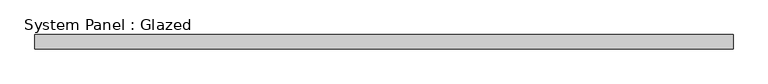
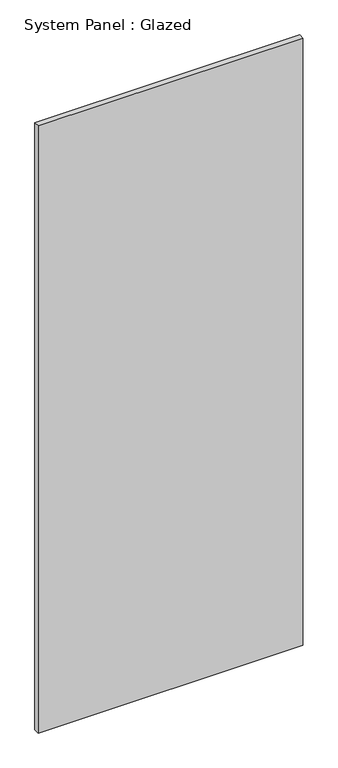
"""IFC4 building model written with IfcOpenShell, lengths in millimetres: plate geometry, System Panel : Glazed."""

from ifc_helpers import new_model, si_unit, origin, origin_with_axes, place, context, project, spatial, polyline, outline, extrude, source, transform, mapped, element, save


def system_panel_glazed_3ccd4ad1(model_context):
    return source(origin(), model_context, "Body", "SweptSolid", [
        extrude(outline(polyline([(620.7125, -44.45), (-620.7125, -44.45), (-620.7125, -19.05), (620.7125, -19.05), (620.7125, -44.45)])), origin_with_axes(), (0.0, 0.0, 1.0), 3009.9),
    ])


if __name__ == "__main__":
    model = new_model("IFC4")
    model_context = context("Model", 3, world=origin())
    ifc_project = project(units=[si_unit("LENGTHUNIT", "METRE", prefix="MILLI")], contexts=[model_context])
    site = spatial("IfcSite", under=ifc_project)
    building = spatial("IfcBuilding", under=site)
    placement = place(None, origin())
    system_panel_glazed_shape = system_panel_glazed_3ccd4ad1(model_context)
    element("IfcPlate", 1, ObjectType="System Panel : Glazed", at=placement, inside=building, context=model_context, shape_type="MappedRepresentation", body=[
        mapped(system_panel_glazed_shape, transform((0.0, 0.0, 0.0), x_axis=(1.0, 0.0, 0.0), y_axis=(0.0, 1.0, 0.0), z_axis=(0.0, 0.0, 1.0))),
    ])
    save(model, "model.ifc")
